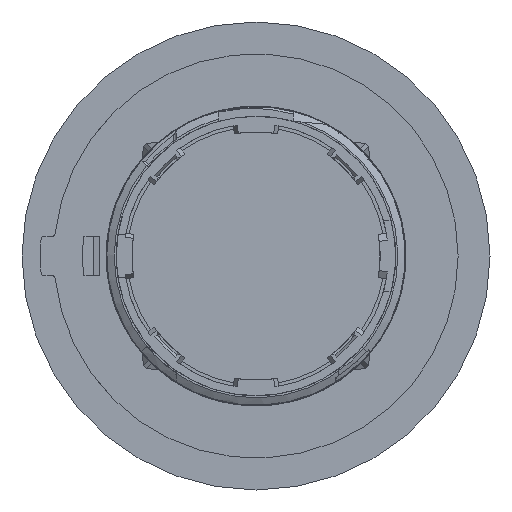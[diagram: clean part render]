
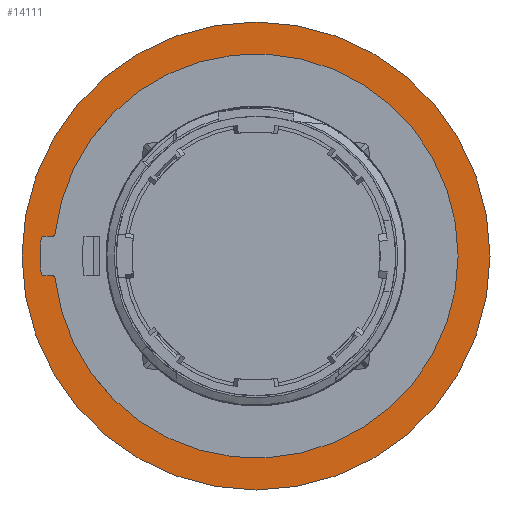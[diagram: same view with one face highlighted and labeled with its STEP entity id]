
A CAD part, front view. The second image highlights one B-rep face of the part: STEP entity #14111.
In plain terms, the highlighted planar face has unit normal (0, -1, 0).
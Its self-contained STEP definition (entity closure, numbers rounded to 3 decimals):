
#397=CARTESIAN_POINT('',(0.,5.7,0.));
#398=DIRECTION('',(0.,1.,0.));
#399=DIRECTION('',(1.,0.,0.));
#400=AXIS2_PLACEMENT_3D('',#397,#398,#399);
#442=CARTESIAN_POINT('',(0.,5.7,0.));
#443=DIRECTION('',(0.,1.,0.));
#444=DIRECTION('',(1.,0.,0.));
#445=AXIS2_PLACEMENT_3D('',#442,#443,#444);
#447=CARTESIAN_POINT('',(0.,5.7,0.));
#448=DIRECTION('',(0.,1.,0.));
#449=DIRECTION('',(-1.,0.,0.));
#450=AXIS2_PLACEMENT_3D('',#447,#448,#449);
#4804=CARTESIAN_POINT('',(0.,5.7,0.));
#4805=DIRECTION('',(0.,1.,0.));
#4806=DIRECTION('',(-1.,0.,0.));
#4807=AXIS2_PLACEMENT_3D('',#4804,#4805,#4806);
#13810=CARTESIAN_POINT('',(17.25,5.7,0.));
#13811=CARTESIAN_POINT('',(-17.25,5.7,0.));
#13812=VERTEX_POINT('',#13810);
#13813=VERTEX_POINT('',#13811);
#13814=CARTESIAN_POINT('',(-14.801,5.7,0.));
#13815=CARTESIAN_POINT('',(14.801,5.7,0.));
#13816=VERTEX_POINT('',#13814);
#13817=VERTEX_POINT('',#13815);
#14095=CARTESIAN_POINT('',(0.,5.7,0.));
#14096=DIRECTION('',(0.,1.,0.));
#14097=DIRECTION('',(1.,0.,0.));
#14098=AXIS2_PLACEMENT_3D('',#14095,#14096,#14097);
#14099=PLANE('',#14098);
#14101=ORIENTED_EDGE('',*,*,#14100,.T.);
#14103=ORIENTED_EDGE('',*,*,#14102,.T.);
#14104=EDGE_LOOP('',(#14101,#14103));
#14105=FACE_OUTER_BOUND('',#14104,.F.);
#14107=ORIENTED_EDGE('',*,*,#14106,.F.);
#14108=ORIENTED_EDGE('',*,*,#14072,.F.);
#14109=EDGE_LOOP('',(#14107,#14108));
#14110=FACE_BOUND('',#14109,.F.);
#401=CIRCLE('',#400,14.801);
#446=CIRCLE('',#445,17.25);
#451=CIRCLE('',#450,17.25);
#4808=CIRCLE('',#4807,14.801);
#14072=EDGE_CURVE('',#13817,#13816,#401,.T.);
#14100=EDGE_CURVE('',#13812,#13813,#446,.T.);
#14102=EDGE_CURVE('',#13813,#13812,#451,.T.);
#14106=EDGE_CURVE('',#13816,#13817,#4808,.T.);
#14111=ADVANCED_FACE('',(#14105,#14110),#14099,.F.);
